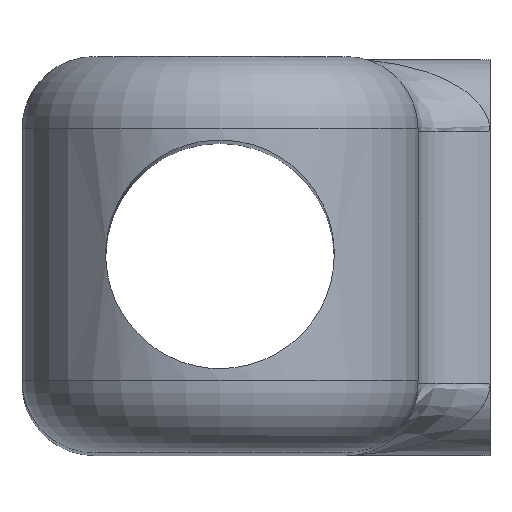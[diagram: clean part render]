
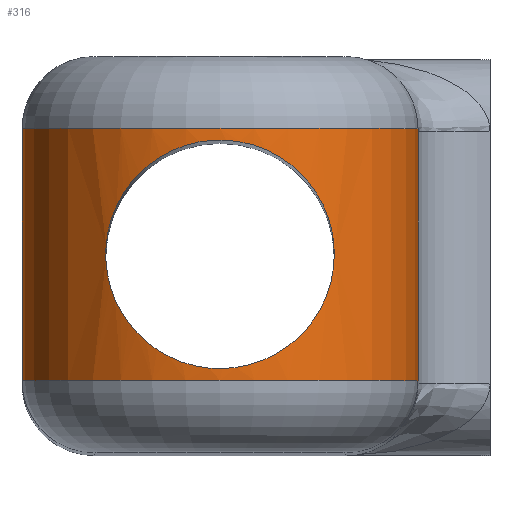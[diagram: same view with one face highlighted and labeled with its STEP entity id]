
A CAD part, top view. The second image highlights one B-rep face of the part: STEP entity #316.
In plain terms, the highlighted cylindrical face has radius 11 mm (diameter 22 mm), a partial arc.
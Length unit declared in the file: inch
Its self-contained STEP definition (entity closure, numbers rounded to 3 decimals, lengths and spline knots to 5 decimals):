
#31=FACE_BOUND('',#57,.T.);
#34=FACE_OUTER_BOUND('',#56,.T.);
#56=EDGE_LOOP('',(#217,#218,#219,#220));
#57=EDGE_LOOP('',(#221));
#79=B_SPLINE_CURVE_WITH_KNOTS('',3,(#514,#515,#516,#517,#518,#519,#520,
#521,#522,#523,#524,#525,#526,#527,#528,#529,#530,#531,#532,#533,#534,#535,
#536,#537,#538,#539,#540,#541,#542,#543,#544,#545,#546,#547),
 .UNSPECIFIED.,.T.,.F.,(4,2,2,2,2,2,2,2,2,2,2,2,2,2,2,2,4),(0.,0.24674,
0.49347,0.73889,0.9843,1.22972,
1.47514,1.72187,1.96861,2.21534,2.46208,
2.70749,2.95291,3.19833,3.44374,3.69048,
3.93721),.UNSPECIFIED.);
#81=LINE('',#553,#101);
#82=LINE('',#556,#102);
#101=VECTOR('',#407,0.55118);
#102=VECTOR('',#410,0.55118);
#121=CIRCLE('',#354,0.43307);
#122=CIRCLE('',#355,0.43307);
#142=VERTEX_POINT('',#512);
#143=VERTEX_POINT('',#549);
#144=VERTEX_POINT('',#550);
#145=VERTEX_POINT('',#552);
#146=VERTEX_POINT('',#554);
#169=EDGE_CURVE('',#142,#142,#79,.T.);
#170=EDGE_CURVE('',#143,#144,#121,.T.);
#171=EDGE_CURVE('',#143,#145,#81,.T.);
#172=EDGE_CURVE('',#146,#145,#122,.T.);
#173=EDGE_CURVE('',#144,#146,#82,.T.);
#217=ORIENTED_EDGE('',*,*,#170,.F.);
#218=ORIENTED_EDGE('',*,*,#171,.T.);
#219=ORIENTED_EDGE('',*,*,#172,.F.);
#220=ORIENTED_EDGE('',*,*,#173,.F.);
#221=ORIENTED_EDGE('',*,*,#169,.T.);
#306=CYLINDRICAL_SURFACE('',#353,0.43307);
#316=ADVANCED_FACE('',(#34,#31),#306,.T.);
#353=AXIS2_PLACEMENT_3D('',#548,#403,#404);
#354=AXIS2_PLACEMENT_3D('',#551,#405,#406);
#355=AXIS2_PLACEMENT_3D('',#555,#408,#409);
#403=DIRECTION('center_axis',(0.,1.,0.));
#404=DIRECTION('ref_axis',(-1.,0.,0.));
#405=DIRECTION('center_axis',(0.,-1.,0.));
#406=DIRECTION('ref_axis',(0.,0.,1.));
#407=DIRECTION('',(0.,1.,0.));
#408=DIRECTION('center_axis',(0.,1.,0.));
#409=DIRECTION('ref_axis',(0.,0.,1.));
#410=DIRECTION('',(0.,1.,0.));
#512=CARTESIAN_POINT('',(0.25,0.,4.25126));
#514=CARTESIAN_POINT('Ctrl Pts',(0.25,0.,4.25126));
#515=CARTESIAN_POINT('Ctrl Pts',(0.25,-0.03238,4.25126));
#516=CARTESIAN_POINT('Ctrl Pts',(0.24337,-0.06614,4.25618));
#517=CARTESIAN_POINT('Ctrl Pts',(0.21767,-0.12738,4.27234));
#518=CARTESIAN_POINT('Ctrl Pts',(0.19861,-0.15495,4.28322));
#519=CARTESIAN_POINT('Ctrl Pts',(0.15506,-0.19849,4.3027));
#520=CARTESIAN_POINT('Ctrl Pts',(0.12746,-0.21763,4.31272));
#521=CARTESIAN_POINT('Ctrl Pts',(0.06605,-0.2434,
4.3268));
#522=CARTESIAN_POINT('Ctrl Pts',(0.03221,-0.25,4.33071));
#523=CARTESIAN_POINT('Ctrl Pts',(-0.03221,-0.25,4.33071));
#524=CARTESIAN_POINT('Ctrl Pts',(-0.06605,-0.2434,
4.3268));
#525=CARTESIAN_POINT('Ctrl Pts',(-0.12746,-0.21763,
4.31272));
#526=CARTESIAN_POINT('Ctrl Pts',(-0.15506,-0.19849,
4.3027));
#527=CARTESIAN_POINT('Ctrl Pts',(-0.19861,-0.15495,
4.28322));
#528=CARTESIAN_POINT('Ctrl Pts',(-0.21767,-0.12738,4.27234));
#529=CARTESIAN_POINT('Ctrl Pts',(-0.24337,-0.06614,
4.25618));
#530=CARTESIAN_POINT('Ctrl Pts',(-0.25,-0.03238,4.25126));
#531=CARTESIAN_POINT('Ctrl Pts',(-0.25,0.03238,4.25126));
#532=CARTESIAN_POINT('Ctrl Pts',(-0.24337,0.06614,4.25618));
#533=CARTESIAN_POINT('Ctrl Pts',(-0.21767,0.12738,4.27234));
#534=CARTESIAN_POINT('Ctrl Pts',(-0.19861,0.15495,4.28322));
#535=CARTESIAN_POINT('Ctrl Pts',(-0.15506,0.19849,4.3027));
#536=CARTESIAN_POINT('Ctrl Pts',(-0.12746,0.21763,4.31272));
#537=CARTESIAN_POINT('Ctrl Pts',(-0.06605,0.2434,
4.3268));
#538=CARTESIAN_POINT('Ctrl Pts',(-0.03221,0.25,4.33071));
#539=CARTESIAN_POINT('Ctrl Pts',(0.03221,0.25,4.33071));
#540=CARTESIAN_POINT('Ctrl Pts',(0.06605,0.2434,4.3268));
#541=CARTESIAN_POINT('Ctrl Pts',(0.12746,0.21763,4.31272));
#542=CARTESIAN_POINT('Ctrl Pts',(0.15506,0.19849,4.3027));
#543=CARTESIAN_POINT('Ctrl Pts',(0.19861,0.15495,4.28322));
#544=CARTESIAN_POINT('Ctrl Pts',(0.21767,0.12738,4.27234));
#545=CARTESIAN_POINT('Ctrl Pts',(0.24337,0.06614,4.25618));
#546=CARTESIAN_POINT('Ctrl Pts',(0.25,0.03238,4.25126));
#547=CARTESIAN_POINT('Ctrl Pts',(0.25,0.,4.25126));
#548=CARTESIAN_POINT('Origin',(0.,0.,3.89764));
#549=CARTESIAN_POINT('',(0.43307,-0.27559,3.89764));
#550=CARTESIAN_POINT('',(-0.43307,-0.27559,3.89764));
#551=CARTESIAN_POINT('Origin',(0.,-0.27559,
3.89764));
#552=CARTESIAN_POINT('',(0.43307,0.27559,3.89764));
#553=CARTESIAN_POINT('',(0.43307,-0.27559,3.89764));
#554=CARTESIAN_POINT('',(-0.43307,0.27559,3.89764));
#555=CARTESIAN_POINT('Origin',(0.,0.27559,
3.89764));
#556=CARTESIAN_POINT('',(-0.43307,-0.27559,3.89764));
